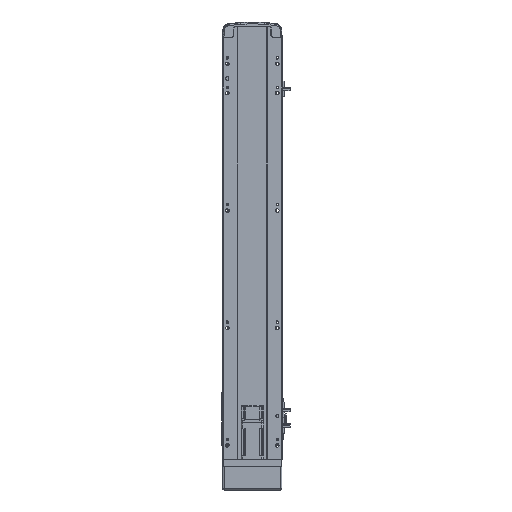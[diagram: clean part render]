
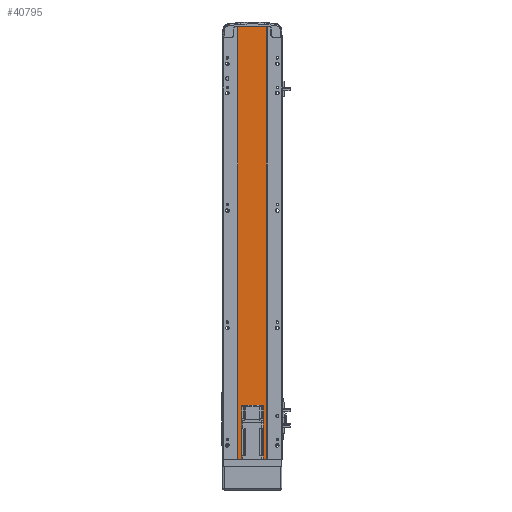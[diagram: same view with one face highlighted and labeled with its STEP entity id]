
A CAD part, front view. The second image highlights one B-rep face of the part: STEP entity #40795.
In plain terms, the highlighted planar face has unit normal (0, -1, 0).
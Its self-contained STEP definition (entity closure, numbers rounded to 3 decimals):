
#81 = VECTOR ( 'NONE', #12459, 1000. ) ;
#425 = ORIENTED_EDGE ( 'NONE', *, *, #18872, .F. ) ;
#739 = VECTOR ( 'NONE', #56633, 1000. ) ;
#3466 = CARTESIAN_POINT ( 'NONE',  ( -24.5, 2., 737. ) ) ;
#4572 = VERTEX_POINT ( 'NONE', #53112 ) ;
#5220 = CARTESIAN_POINT ( 'NONE',  ( 24.5, 2., 737. ) ) ;
#6984 = FACE_OUTER_BOUND ( 'NONE', #9541, .T. ) ;
#7289 = VERTEX_POINT ( 'NONE', #37893 ) ;
#8355 = ORIENTED_EDGE ( 'NONE', *, *, #10621, .T. ) ;
#9541 = EDGE_LOOP ( 'NONE', ( #55582, #425, #25610, #8355 ) ) ;
#10621 = EDGE_CURVE ( 'NONE', #52434, #4572, #44859, .T. ) ;
#11299 = CARTESIAN_POINT ( 'NONE',  ( 0., 2., 737. ) ) ;
#11943 = DIRECTION ( 'NONE',  ( 0., 0., -1. ) ) ;
#12459 = DIRECTION ( 'NONE',  ( 0., 0., -1. ) ) ;
#15823 = DIRECTION ( 'NONE',  ( 0., 1., 0. ) ) ;
#16564 = EDGE_CURVE ( 'NONE', #4572, #7289, #24850, .T. ) ;
#18151 = EDGE_CURVE ( 'NONE', #52434, #26141, #45467, .T. ) ;
#18872 = EDGE_CURVE ( 'NONE', #26141, #7289, #46756, .T. ) ;
#21672 = CARTESIAN_POINT ( 'NONE',  ( -24.5, 2., 737. ) ) ;
#24383 = VECTOR ( 'NONE', #11943, 1000. ) ;
#24850 = LINE ( 'NONE', #29906, #739 ) ;
#25178 = PLANE ( 'NONE',  #26659 ) ;
#25610 = ORIENTED_EDGE ( 'NONE', *, *, #18151, .F. ) ;
#25709 = VECTOR ( 'NONE', #48738, 1000. ) ;
#26141 = VERTEX_POINT ( 'NONE', #5220 ) ;
#26659 = AXIS2_PLACEMENT_3D ( 'NONE', #11299, #15823, #57190 ) ;
#29906 = CARTESIAN_POINT ( 'NONE',  ( 0., 2., 0. ) ) ;
#37893 = CARTESIAN_POINT ( 'NONE',  ( 24.5, 2., 0. ) ) ;
#39571 = CARTESIAN_POINT ( 'NONE',  ( 24.5, 2., 737. ) ) ;
#40795 = ADVANCED_FACE ( 'NONE', ( #6984 ), #25178, .F. ) ;
#44859 = LINE ( 'NONE', #48624, #24383 ) ;
#45467 = LINE ( 'NONE', #3466, #25709 ) ;
#46756 = LINE ( 'NONE', #39571, #81 ) ;
#48624 = CARTESIAN_POINT ( 'NONE',  ( -24.5, 2., 737. ) ) ;
#48738 = DIRECTION ( 'NONE',  ( 1., 0., 0. ) ) ;
#52434 = VERTEX_POINT ( 'NONE', #21672 ) ;
#53112 = CARTESIAN_POINT ( 'NONE',  ( -24.5, 2., 0. ) ) ;
#55582 = ORIENTED_EDGE ( 'NONE', *, *, #16564, .T. ) ;
#56633 = DIRECTION ( 'NONE',  ( 1., 0., 0. ) ) ;
#57190 = DIRECTION ( 'NONE',  ( 0., 0., 1. ) ) ;
